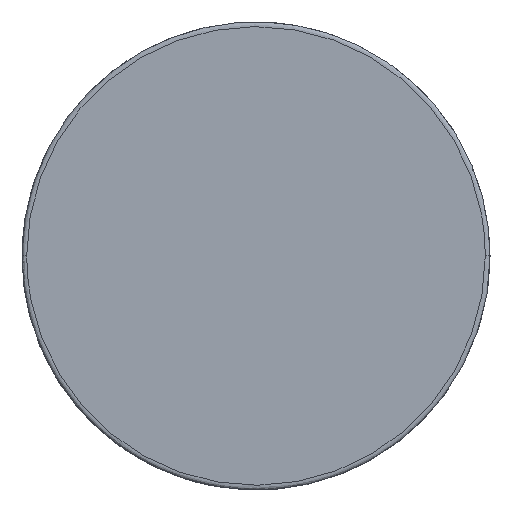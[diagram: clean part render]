
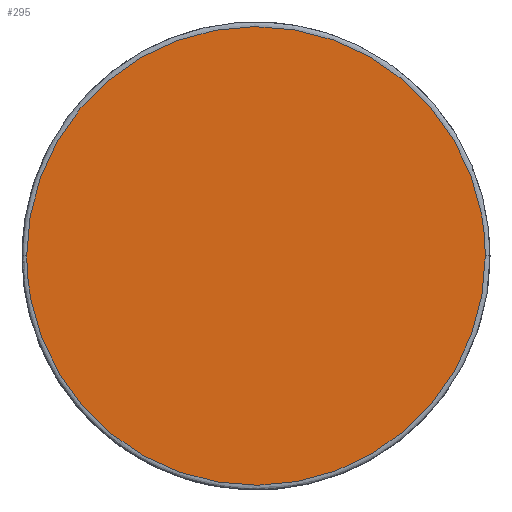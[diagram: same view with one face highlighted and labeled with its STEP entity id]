
A CAD part, top view. The second image highlights one B-rep face of the part: STEP entity #295.
In plain terms, the highlighted planar face has unit normal (0, 0, 1).
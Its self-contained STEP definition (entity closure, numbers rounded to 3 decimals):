
#295=ADVANCED_FACE('',(#575),#6354,.T.);
#575=FACE_OUTER_BOUND('',#857,.T.);
#857=EDGE_LOOP('',(#1373,#1374));
#1373=ORIENTED_EDGE('',*,*,#3200,.F.);
#1374=ORIENTED_EDGE('',*,*,#3193,.F.);
#3193=EDGE_CURVE('',#5560,#5564,#4858,.T.);
#3200=EDGE_CURVE('',#5564,#5560,#4862,.T.);
#4858=B_SPLINE_CURVE_WITH_KNOTS('',3,(#8367,#8368,#8369,#8370,#8371,#8372,
#8373,#8374,#8375,#8376,#8377,#8378,#8379,#8380,#8381,#8382,#8383,#8384,
#8385,#8386,#8387,#8388,#8389,#8390,#8391,#8392,#8393,#8394,#8395,#8396,
#8397,#8398,#8399,#8400,#8401,#8402,#8403,#8404,#8405,#8406,#8407,#8408,
#8409),.UNSPECIFIED.,.F.,.F.,(4,1,1,1,1,1,1,1,1,1,1,1,1,1,1,1,1,1,1,1,1,
1,1,1,1,1,1,1,1,1,1,1,1,1,1,1,1,1,1,1,4),(0.,8.966,13.719,
18.471,23.422,28.372,33.428,38.484,
43.541,48.597,53.547,58.498,63.25,
68.003,72.486,76.969,81.452,85.935,
88.311,90.688,95.44,97.915,100.391,
102.866,105.341,110.397,112.925,115.453,
117.982,120.51,125.566,128.041,130.516,
132.992,135.467,140.219,142.596,144.972,
147.213,149.455,153.938),.UNSPECIFIED.);
#4862=B_SPLINE_CURVE_WITH_KNOTS('',3,(#8477,#8478,#8479,#8480,#8481,#8482,
#8483,#8484,#8485,#8486,#8487,#8488,#8489,#8490,#8491,#8492,#8493,#8494,
#8495,#8496,#8497,#8498,#8499,#8500,#8501,#8502,#8503,#8504,#8505,#8506,
#8507,#8508,#8509,#8510,#8511,#8512,#8513,#8514,#8515,#8516,#8517,#8518,
#8519,#8520,#8521),.UNSPECIFIED.,.F.,.F.,(4,1,1,1,1,1,1,1,1,1,1,1,1,1,1,
1,1,1,1,1,1,1,1,1,1,1,1,1,1,1,1,1,1,1,1,1,1,1,1,1,1,1,4),(153.938,
156.18,158.421,160.663,162.904,167.657,
170.033,172.409,174.884,177.36,182.31,
184.838,187.366,189.894,192.422,197.479,
200.007,202.535,205.01,207.485,212.436,
214.812,217.188,219.565,221.941,226.424,
230.907,233.149,235.39,239.873,244.626,
249.378,254.329,259.279,264.335,269.391,
274.448,279.504,284.454,289.405,294.157,
298.91,307.876),.UNSPECIFIED.);
#5560=VERTEX_POINT('',#8343);
#5564=VERTEX_POINT('',#8347);
#6354=PLANE('',#6977);
#6977=AXIS2_PLACEMENT_3D('',#7273,#7041,$);
#7041=DIRECTION('',(0.,0.,1.));
#7273=CARTESIAN_POINT('',(-62.5,30.092,537.276));
#8343=CARTESIAN_POINT('',(49.,-32.408,537.276));
#8347=CARTESIAN_POINT('',(-49.,-32.408,537.276));
#8367=CARTESIAN_POINT('',(49.,-32.408,537.276));
#8368=CARTESIAN_POINT('',(49.,-35.397,537.276));
#8369=CARTESIAN_POINT('',(48.58,-39.969,537.276));
#8370=CARTESIAN_POINT('',(47.166,-45.969,537.276));
#8371=CARTESIAN_POINT('',(45.61,-50.535,537.276));
#8372=CARTESIAN_POINT('',(43.582,-54.986,537.276));
#8373=CARTESIAN_POINT('',(41.065,-59.297,537.276));
#8374=CARTESIAN_POINT('',(38.1,-63.358,537.276));
#8375=CARTESIAN_POINT('',(34.71,-67.118,537.276));
#8376=CARTESIAN_POINT('',(30.95,-70.508,537.276));
#8377=CARTESIAN_POINT('',(26.889,-73.473,537.276));
#8378=CARTESIAN_POINT('',(22.578,-75.99,537.276));
#8379=CARTESIAN_POINT('',(18.128,-78.018,537.276));
#8380=CARTESIAN_POINT('',(13.561,-79.574,537.276));
#8381=CARTESIAN_POINT('',(9.018,-80.645,537.276));
#8382=CARTESIAN_POINT('',(4.483,-81.271,537.276));
#8383=CARTESIAN_POINT('',(0.,-81.476,537.276));
#8384=CARTESIAN_POINT('',(-4.483,-81.271,537.276));
#8385=CARTESIAN_POINT('',(-8.232,-80.753,537.276));
#8386=CARTESIAN_POINT('',(-11.246,-80.12,537.276));
#8387=CARTESIAN_POINT('',(-14.312,-79.318,537.276));
#8388=CARTESIAN_POINT('',(-17.346,-78.284,537.276));
#8389=CARTESIAN_POINT('',(-20.323,-77.018,537.276));
#8390=CARTESIAN_POINT('',(-22.549,-75.935,537.276));
#8391=CARTESIAN_POINT('',(-24.719,-74.74,537.276));
#8392=CARTESIAN_POINT('',(-27.557,-72.986,537.276));
#8393=CARTESIAN_POINT('',(-30.268,-71.006,537.276));
#8394=CARTESIAN_POINT('',(-32.83,-68.813,537.276));
#8395=CARTESIAN_POINT('',(-34.664,-67.072,537.276));
#8396=CARTESIAN_POINT('',(-36.405,-65.238,537.276));
#8397=CARTESIAN_POINT('',(-38.598,-62.676,537.276));
#8398=CARTESIAN_POINT('',(-40.578,-59.965,537.276));
#8399=CARTESIAN_POINT('',(-42.332,-57.127,537.276));
#8400=CARTESIAN_POINT('',(-43.527,-54.957,537.276));
#8401=CARTESIAN_POINT('',(-44.61,-52.731,537.276));
#8402=CARTESIAN_POINT('',(-45.876,-49.754,537.276));
#8403=CARTESIAN_POINT('',(-46.91,-46.72,537.276));
#8404=CARTESIAN_POINT('',(-47.712,-43.654,537.276));
#8405=CARTESIAN_POINT('',(-48.192,-41.372,537.276));
#8406=CARTESIAN_POINT('',(-48.556,-39.114,537.276));
#8407=CARTESIAN_POINT('',(-48.897,-36.144,537.276));
#8408=CARTESIAN_POINT('',(-49.,-33.902,537.276));
#8409=CARTESIAN_POINT('',(-49.,-32.408,537.276));
#8477=CARTESIAN_POINT('',(-49.,-32.408,537.276));
#8478=CARTESIAN_POINT('',(-49.,-31.661,537.276));
#8479=CARTESIAN_POINT('',(-48.966,-30.166,537.276));
#8480=CARTESIAN_POINT('',(-48.812,-27.93,537.276));
#8481=CARTESIAN_POINT('',(-48.556,-25.702,537.276));
#8482=CARTESIAN_POINT('',(-48.065,-22.662,537.276));
#8483=CARTESIAN_POINT('',(-47.348,-19.618,537.276));
#8484=CARTESIAN_POINT('',(-46.399,-16.595,537.276));
#8485=CARTESIAN_POINT('',(-45.566,-14.333,537.276));
#8486=CARTESIAN_POINT('',(-44.61,-12.085,537.276));
#8487=CARTESIAN_POINT('',(-43.166,-9.116,537.276));
#8488=CARTESIAN_POINT('',(-41.49,-6.247,537.276));
#8489=CARTESIAN_POINT('',(-39.593,-3.502,537.276));
#8490=CARTESIAN_POINT('',(-38.05,-1.499,537.276));
#8491=CARTESIAN_POINT('',(-36.405,0.422,537.276));
#8492=CARTESIAN_POINT('',(-34.083,2.867,537.276));
#8493=CARTESIAN_POINT('',(-31.577,5.127,537.276));
#8494=CARTESIAN_POINT('',(-28.905,7.185,537.276));
#8495=CARTESIAN_POINT('',(-26.84,8.613,537.276));
#8496=CARTESIAN_POINT('',(-24.719,9.924,537.276));
#8497=CARTESIAN_POINT('',(-21.826,11.517,537.276));
#8498=CARTESIAN_POINT('',(-18.849,12.873,537.276));
#8499=CARTESIAN_POINT('',(-15.813,13.991,537.276));
#8500=CARTESIAN_POINT('',(-13.545,14.703,537.276));
#8501=CARTESIAN_POINT('',(-11.246,15.304,537.276));
#8502=CARTESIAN_POINT('',(-8.232,15.937,537.276));
#8503=CARTESIAN_POINT('',(-4.483,16.455,537.276));
#8504=CARTESIAN_POINT('',(-0.747,16.626,537.276));
#8505=CARTESIAN_POINT('',(2.242,16.558,537.276));
#8506=CARTESIAN_POINT('',(5.224,16.353,537.276));
#8507=CARTESIAN_POINT('',(9.018,15.829,537.276));
#8508=CARTESIAN_POINT('',(13.561,14.758,537.276));
#8509=CARTESIAN_POINT('',(18.128,13.202,537.276));
#8510=CARTESIAN_POINT('',(22.578,11.174,537.276));
#8511=CARTESIAN_POINT('',(26.889,8.657,537.276));
#8512=CARTESIAN_POINT('',(30.95,5.692,537.276));
#8513=CARTESIAN_POINT('',(34.71,2.302,537.276));
#8514=CARTESIAN_POINT('',(38.1,-1.458,537.276));
#8515=CARTESIAN_POINT('',(41.065,-5.519,537.276));
#8516=CARTESIAN_POINT('',(43.582,-9.83,537.276));
#8517=CARTESIAN_POINT('',(45.61,-14.28,537.276));
#8518=CARTESIAN_POINT('',(47.166,-18.847,537.276));
#8519=CARTESIAN_POINT('',(48.58,-24.846,537.276));
#8520=CARTESIAN_POINT('',(49.,-29.419,537.276));
#8521=CARTESIAN_POINT('',(49.,-32.408,537.276));
